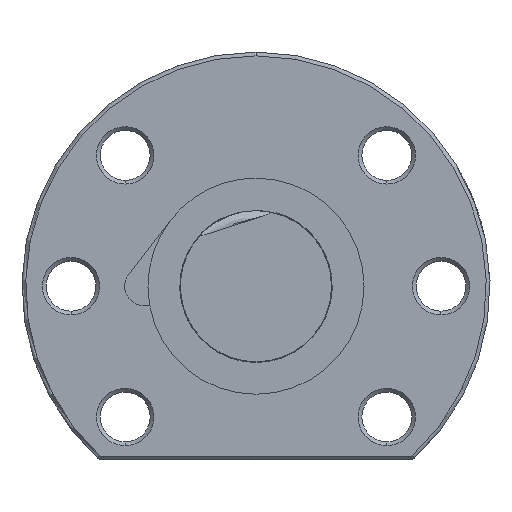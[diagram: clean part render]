
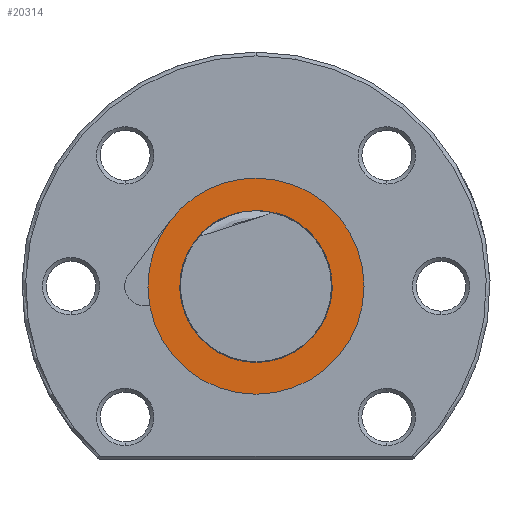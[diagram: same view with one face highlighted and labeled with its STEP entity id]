
A CAD part, left-side view. The second image highlights one B-rep face of the part: STEP entity #20314.
In plain terms, the highlighted planar face has unit normal (-1, 0, 0).
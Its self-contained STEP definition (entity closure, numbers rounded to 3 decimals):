
#14140 = DIRECTION ( 'NONE',  ( 0., 0., 1. ) ) ;
#14141 = DIRECTION ( 'NONE',  ( -1., 0., 0. ) ) ;
#14142 = CARTESIAN_POINT ( 'NONE',  ( -55.8, 0., 10.1 ) ) ;
#14143 = AXIS2_PLACEMENT_3D ( 'NONE', #14142, #14141, #14140 ) ;
#14144 = PLANE ( 'NONE',  #14143 ) ;
#14145 = FACE_OUTER_BOUND ( 'NONE', #20751, .T. ) ;
#14146 = FACE_BOUND ( 'NONE', #20315, .T. ) ;
#14147 = DIRECTION ( 'NONE',  ( 0., 0., 1. ) ) ;
#14148 = DIRECTION ( 'NONE',  ( -1., 0., 0. ) ) ;
#14149 = AXIS2_PLACEMENT_3D ( 'NONE', #14156, #14148, #14147 ) ;
#14150 = CIRCLE ( 'NONE', #14149, 10.1 ) ;
#14156 = CARTESIAN_POINT ( 'NONE',  ( -55.8, 0., 0. ) ) ;
#14178 = CARTESIAN_POINT ( 'NONE',  ( -55.8, -2.665, 9.742 ) ) ;
#14179 = DIRECTION ( 'NONE',  ( 0., 0., 1. ) ) ;
#14180 = DIRECTION ( 'NONE',  ( -1., 0., 0. ) ) ;
#14181 = CARTESIAN_POINT ( 'NONE',  ( -55.8, 0., 0. ) ) ;
#14182 = AXIS2_PLACEMENT_3D ( 'NONE', #14181, #14180, #14179 ) ;
#14183 = CIRCLE ( 'NONE', #14182, 10.1 ) ;
#14188 = CARTESIAN_POINT ( 'NONE',  ( -55.8, 0., -10.1 ) ) ;
#14333 = CARTESIAN_POINT ( 'NONE',  ( -55.8, 14.095, -2.486 ) ) ;
#14334 = DIRECTION ( 'NONE',  ( 0., 0., 1. ) ) ;
#14335 = DIRECTION ( 'NONE',  ( -1., 0., 0. ) ) ;
#14336 = CARTESIAN_POINT ( 'NONE',  ( -55.8, 0., 0. ) ) ;
#14337 = AXIS2_PLACEMENT_3D ( 'NONE', #14336, #14335, #14334 ) ;
#14338 = CIRCLE ( 'NONE', #14337, 14.313 ) ;
#14686 = CARTESIAN_POINT ( 'NONE',  ( -55.8, 0., 14.313 ) ) ;
#14687 = CARTESIAN_POINT ( 'NONE',  ( -55.8, 0., -14.313 ) ) ;
#14688 = DIRECTION ( 'NONE',  ( 0., 0., 1. ) ) ;
#14689 = DIRECTION ( 'NONE',  ( -1., 0., 0. ) ) ;
#14690 = AXIS2_PLACEMENT_3D ( 'NONE', #14734, #14689, #14688 ) ;
#14691 = CIRCLE ( 'NONE', #14690, 14.313 ) ;
#14734 = CARTESIAN_POINT ( 'NONE',  ( -55.8, 0., 0. ) ) ;
#14814 = CARTESIAN_POINT ( 'NONE',  ( -55.8, 11.329, 8.746 ) ) ;
#14815 = DIRECTION ( 'NONE',  ( 0., 0., 1. ) ) ;
#14816 = DIRECTION ( 'NONE',  ( -1., 0., 0. ) ) ;
#14817 = CARTESIAN_POINT ( 'NONE',  ( -55.8, 0., 0. ) ) ;
#14818 = AXIS2_PLACEMENT_3D ( 'NONE', #14817, #14816, #14815 ) ;
#14819 = CIRCLE ( 'NONE', #14818, 14.313 ) ;
#18742 = CIRCLE ( 'NONE', #18983, 14.313 ) ;
#18824 = CARTESIAN_POINT ( 'NONE',  ( -55.8, 7.028, 7.254 ) ) ;
#18825 = CARTESIAN_POINT ( 'NONE',  ( -55.8, 6.932, 7.211 ) ) ;
#18826 = CARTESIAN_POINT ( 'NONE',  ( -55.8, 6.826, 7.192 ) ) ;
#18827 = CARTESIAN_POINT ( 'NONE',  ( -55.8, 6.614, 7.181 ) ) ;
#18828 = CARTESIAN_POINT ( 'NONE',  ( -55.8, 6.51, 7.188 ) ) ;
#18829 = CARTESIAN_POINT ( 'NONE',  ( -55.8, 6.198, 7.225 ) ) ;
#18830 = CARTESIAN_POINT ( 'NONE',  ( -55.8, 5.992, 7.274 ) ) ;
#18831 = CARTESIAN_POINT ( 'NONE',  ( -55.8, 5.382, 7.438 ) ) ;
#18832 = CARTESIAN_POINT ( 'NONE',  ( -55.8, 4.983, 7.574 ) ) ;
#18833 = CARTESIAN_POINT ( 'NONE',  ( -55.8, 4.184, 7.84 ) ) ;
#18834 = CARTESIAN_POINT ( 'NONE',  ( -55.8, 3.785, 7.972 ) ) ;
#18835 = CARTESIAN_POINT ( 'NONE',  ( -55.8, 2.98, 8.219 ) ) ;
#18836 = CARTESIAN_POINT ( 'NONE',  ( -55.8, 2.575, 8.334 ) ) ;
#18837 = CARTESIAN_POINT ( 'NONE',  ( -55.8, 1.76, 8.544 ) ) ;
#18838 = CARTESIAN_POINT ( 'NONE',  ( -55.8, 1.35, 8.638 ) ) ;
#18839 = CARTESIAN_POINT ( 'NONE',  ( -55.8, 0.526, 8.809 ) ) ;
#18840 = CARTESIAN_POINT ( 'NONE',  ( -55.8, 0.112, 8.886 ) ) ;
#18841 = CARTESIAN_POINT ( 'NONE',  ( -55.8, -0.716, 9.037 ) ) ;
#18842 = CARTESIAN_POINT ( 'NONE',  ( -55.8, -1.132, 9.11 ) ) ;
#18843 = CARTESIAN_POINT ( 'NONE',  ( -55.8, -1.744, 9.259 ) ) ;
#18844 = CARTESIAN_POINT ( 'NONE',  ( -55.8, -1.946, 9.316 ) ) ;
#18845 = CARTESIAN_POINT ( 'NONE',  ( -55.8, -2.239, 9.433 ) ) ;
#18846 = CARTESIAN_POINT ( 'NONE',  ( -55.8, -2.336, 9.479 ) ) ;
#18847 = CARTESIAN_POINT ( 'NONE',  ( -55.8, -2.516, 9.59 ) ) ;
#18848 = CARTESIAN_POINT ( 'NONE',  ( -55.8, -2.601, 9.658 ) ) ;
#18849 = CARTESIAN_POINT ( 'NONE',  ( -55.8, -2.665, 9.742 ) ) ;
#18858 = B_SPLINE_CURVE_WITH_KNOTS ( 'NONE', 3,
 ( #18849, #18848, #18847, #18846, #18845, #18844, #18843, #18842, #18841, #18840, #18839, #18838, #18837, #18836, #18835, #18834, #18833, #18832, #18831, #18830, #18829, #18828, #18827, #18826, #18825, #18824 ),
 .UNSPECIFIED., .F., .F.,
 ( 4, 2, 2, 2, 2, 2, 2, 2, 2, 2, 2, 2, 4 ),
 ( 0.013, 0.014, 0.014, 0.015, 0.016, 0.017, 0.018, 0.02, 0.021, 0.022, 0.023, 0.023, 0.023 ),
 .UNSPECIFIED. ) ;
#18980 = DIRECTION ( 'NONE',  ( 0., 0., 1. ) ) ;
#18981 = DIRECTION ( 'NONE',  ( -1., 0., 0. ) ) ;
#18982 = CARTESIAN_POINT ( 'NONE',  ( -55.8, 0., 0. ) ) ;
#18983 = AXIS2_PLACEMENT_3D ( 'NONE', #18982, #18981, #18980 ) ;
#19105 = CARTESIAN_POINT ( 'NONE',  ( -55.8, 7.028, 7.254 ) ) ;
#20313 = EDGE_CURVE ( 'NONE', #20943, #20421, #14150, .T. ) ;
#20314 = ADVANCED_FACE ( 'NONE', ( #14146, #14145 ), #14144, .T. ) ;
#20315 = EDGE_LOOP ( 'NONE', ( #20316, #20815, #20750 ) ) ;
#20316 = ORIENTED_EDGE ( 'NONE', *, *, #20313, .F. ) ;
#20414 = EDGE_CURVE ( 'NONE', #20415, #20506, #14338, .T. ) ;
#20415 = VERTEX_POINT ( 'NONE', #14333 ) ;
#20421 = VERTEX_POINT ( 'NONE', #14188 ) ;
#20425 = EDGE_CURVE ( 'NONE', #20421, #20426, #14183, .T. ) ;
#20426 = VERTEX_POINT ( 'NONE', #14178 ) ;
#20505 = EDGE_CURVE ( 'NONE', #20506, #20507, #14691, .T. ) ;
#20506 = VERTEX_POINT ( 'NONE', #14687 ) ;
#20507 = VERTEX_POINT ( 'NONE', #14686 ) ;
#20534 = EDGE_CURVE ( 'NONE', #20507, #20535, #14819, .T. ) ;
#20535 = VERTEX_POINT ( 'NONE', #14814 ) ;
#20750 = ORIENTED_EDGE ( 'NONE', *, *, #20425, .F. ) ;
#20751 = EDGE_LOOP ( 'NONE', ( #20752, #20754, #20755, #20756 ) ) ;
#20752 = ORIENTED_EDGE ( 'NONE', *, *, #20753, .T. ) ;
#20753 = EDGE_CURVE ( 'NONE', #20535, #20415, #18742, .T. ) ;
#20754 = ORIENTED_EDGE ( 'NONE', *, *, #20414, .T. ) ;
#20755 = ORIENTED_EDGE ( 'NONE', *, *, #20505, .T. ) ;
#20756 = ORIENTED_EDGE ( 'NONE', *, *, #20534, .T. ) ;
#20815 = ORIENTED_EDGE ( 'NONE', *, *, #20816, .F. ) ;
#20816 = EDGE_CURVE ( 'NONE', #20426, #20943, #18858, .T. ) ;
#20943 = VERTEX_POINT ( 'NONE', #19105 ) ;
